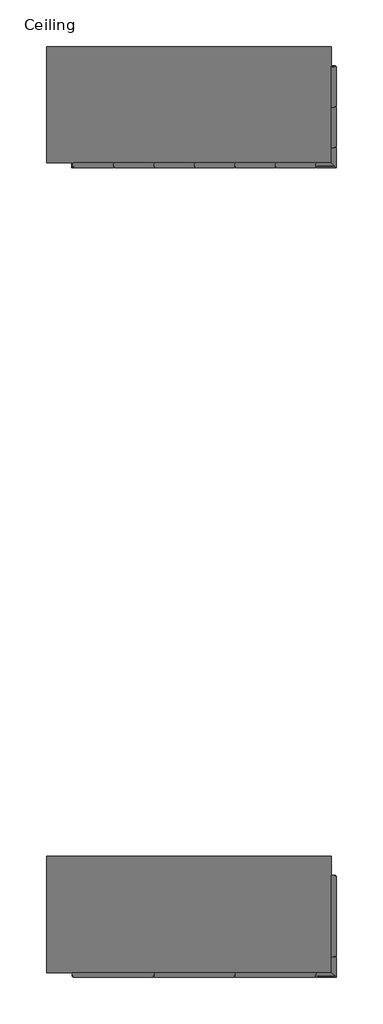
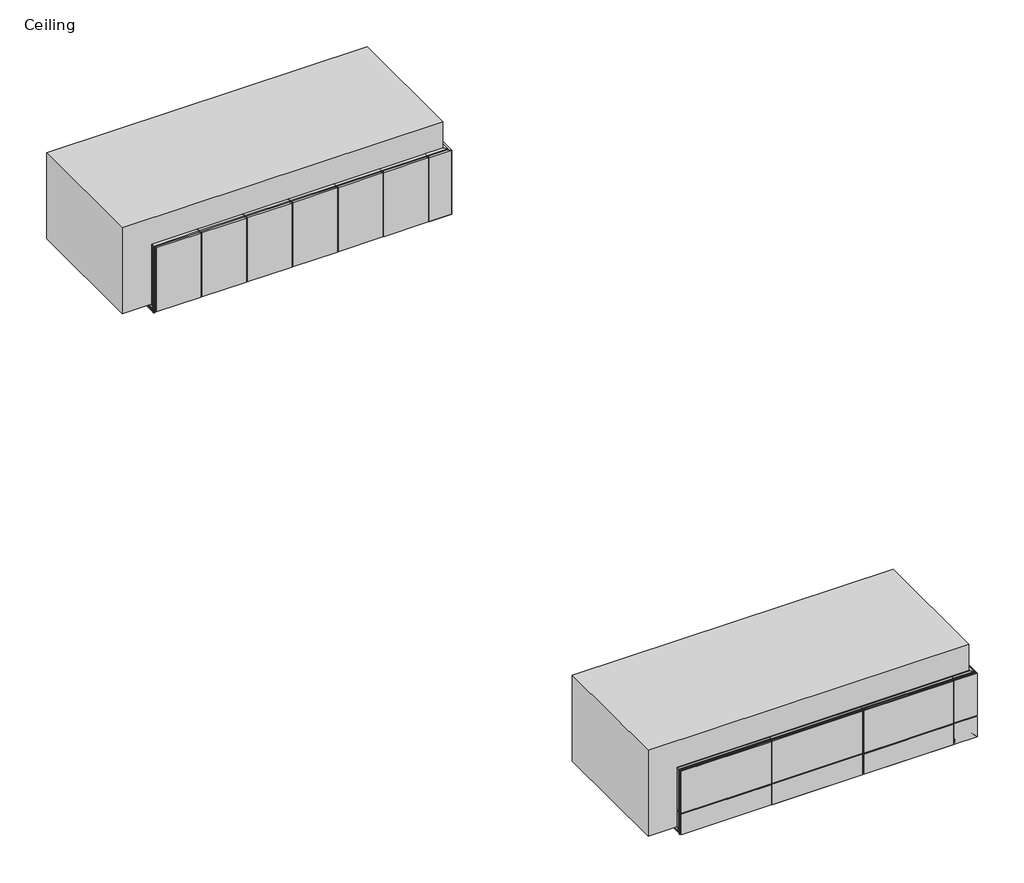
# One storey: 35 plates, 8 members, 5 beams, 4 columns, 2 proxies.
"""IFC4 building model written with IfcOpenShell, lengths in millimetres."""

from ifc_helpers import new_model, si_unit, frame, origin, place, context, project, spatial, polyline, outline, extrude, transform, mapped, element, save
from components import qo_joint_qo_joint_747832e5, qo_joint_qo_joint_809a4c1a, qo_joint_qo_joint_ef6f4e35, qo_joint_qo_joint_871b31b3, qo_joint_b5581623, qo_joint_c_qo_joint_b85e453c, qo_joint_c_qo_joint_4fdc384a, qo_joint_c_qo_joint_f93855ad, rectangular_mullion_dd22ac08, rectangular_mullion_9c43bcef, qb_typ_1_c7bdcc42, qb_typ_1_3ef9bbf9, qb_typ_1_3849cef3, qb_typ_3_8dd94ec6, qb_typ_3_7d6ad6a2, qb_typ_3_c6da5b13, qb_typ_3_665156d4, qb_typ_3_c4b4b162, qb_typ_3_2d20ebb0, qb_typ_3_0e3169c6, qb_typ_4_65a9b30b, qb_typ_4_d61ff5ee, qbf_typ_1_f17363b2, qbf_typ_1_a1c9edf7, qbf_typ_3_6f9cfad4, system_panel_glazed_f46b79a8, tr_empty_empty_53851024, tr_empty_empty_edf3b101, tr_empty_empty_15cdecc1

model = new_model("IFC4")

# Units and contexts
model_context = context("Model", 3, world=origin())
ifc_project = project(units=[si_unit("LENGTHUNIT", "METRE", prefix="MILLI")], contexts=[model_context])

# Site, building, storey
site = spatial("IfcSite", under=ifc_project)
building = spatial("IfcBuilding", under=site)
storey = spatial("IfcBuildingStorey", under=building, Name="Ceiling", Elevation=4650.0)

# Beams
placement = place(None, origin())
element("IfcBeam", 1, ObjectType="QO-V-inner corner : QO-V-inner corner", at=placement, inside=storey, context=model_context, shape_type="SweptSolid", body=[
    extrude(outline(polyline([(4650.0, -6510.4430459), (4676.0, -6510.4430459), (4676.0, -6489.4430459), (4678.0, -6489.4430459), (4678.0, -6504.4031258), (4676.8, -6504.4031258), (4676.8, -6511.2430459), (4650.8, -6511.2430459), (4650.8, -6541.6430459), (4658.0, -6541.6430459), (4658.0, -6540.4430459), (4678.0, -6540.4430459), (4678.0, -6542.4430459), (4650.0, -6542.4430459), (4650.0, -6510.4430459)])), frame((0.0, 5485.8999997, 0.0), z_axis=(0.0, 1.0, 0.0), x_axis=(0.0, 0.0, 1.0)), (0.0, 0.0, 1.0), 2513.9000003),
])
qo_joint_qo_joint_shape = qo_joint_qo_joint_747832e5(model_context)
element("IfcBeam", 2, ObjectType="QO_Joint : QO_Joint", at=placement, inside=storey, context=model_context, shape_type="MappedRepresentation", body=[
    mapped(qo_joint_qo_joint_shape, transform((-6015.5000002, -12012.6989153, 4650.0), x_axis=(1.0, 0.0, 0.0), y_axis=(0.0, 1.0, 0.0), z_axis=(0.0, 0.0, 1.0))),
])
qo_joint_qo_joint_2_shape = qo_joint_qo_joint_809a4c1a(model_context)
element("IfcBeam", 3, ObjectType="QO_Joint : QO_Joint", at=placement, inside=storey, context=model_context, shape_type="MappedRepresentation", body=[
    mapped(qo_joint_qo_joint_2_shape, transform((-6015.5000002, -14008.1989153, 4650.0), x_axis=(1.0, 0.0, 0.0), y_axis=(0.0, 1.0, 0.0), z_axis=(0.0, 0.0, 1.0))),
])
qo_joint_qo_joint_3_shape = qo_joint_qo_joint_ef6f4e35(model_context)
element("IfcBeam", 4, ObjectType="QO_Joint : QO_Joint", at=placement, inside=storey, context=model_context, shape_type="MappedRepresentation", body=[
    mapped(qo_joint_qo_joint_3_shape, transform((-6516.5010848, -13010.25, 4650.0), x_axis=(0.0, 1.0, 0.0), y_axis=(-1.0, 0.0, 0.0), z_axis=(0.0, 0.0, 1.0))),
])
qo_joint_qo_joint_4_shape = qo_joint_qo_joint_871b31b3(model_context)
element("IfcBeam", 5, ObjectType="QO_Joint : QO_Joint", at=placement, inside=storey, context=model_context, shape_type="MappedRepresentation", body=[
    mapped(qo_joint_qo_joint_4_shape, transform((-243.65, 7987.3962597, 4650.0), x_axis=(-1.0, 0.0, 0.0), y_axis=(0.0, -1.0, 0.0), z_axis=(0.0, 0.0, 1.0))),
])

# Proxies
element("IfcBuildingElementProxy", 6, Name="Mass 1 : Mass 1", ObjectType="Mass 1 : Mass 1", at=placement, inside=storey, context=model_context, shape_type="SweptSolid", body=[
    extrude(outline(polyline([(-7167.3804697, -14405.0), (-7167.3804697, -11531.4213108), (-120.0, -11531.4213108), (-120.0, -14405.0), (-7167.3804697, -14405.0)])), frame((0.0, 0.0, 4770.0), z_axis=(0.0, 0.0, 1.0), x_axis=(1.0, 0.0, 0.0)), (0.0, 0.0, 1.0), 2000.0),
])
element("IfcBuildingElementProxy", 7, Name="Mass 2 : Mass 1", ObjectType="Mass 2 : Mass 1", at=placement, inside=storey, context=model_context, shape_type="SweptSolid", body=[
    extrude(outline(polyline([(-7167.3804697, 5605.8999997), (-7167.3804697, 8479.4786889), (-120.0, 8479.4786889), (-120.0, 5605.8999997), (-7167.3804697, 5605.8999997)])), frame((0.0, 0.0, 4770.0), z_axis=(0.0, 0.0, 1.0), x_axis=(1.0, 0.0, 0.0)), (0.0, 0.0, 1.0), 2000.0),
])

# Columns
qo_joint_shape = qo_joint_b5581623(model_context)
element("IfcColumn", 8, ObjectType="QO-V-inner corner_C : QO Joint", at=placement, inside=storey, context=model_context, shape_type="MappedRepresentation", body=[
    mapped(qo_joint_shape, transform((-6489.4430459, 5485.8999997, 0.0), x_axis=(1.0, 0.0, 0.0), y_axis=(0.0, 1.0, 0.0), z_axis=(0.0, 0.0, 1.0))),
])
qo_joint_c_qo_joint_shape = qo_joint_c_qo_joint_b85e453c(model_context)
element("IfcColumn", 9, ObjectType="QO Joint_C : QO Joint", at=placement, inside=storey, context=model_context, shape_type="MappedRepresentation", body=[
    mapped(qo_joint_c_qo_joint_shape, transform((-6516.5000002, -14525.0, 0.0), x_axis=(1.0, 0.0, 0.0), y_axis=(0.0, 1.0, 0.0), z_axis=(0.0, 0.0, 1.0))),
])
qo_joint_c_qo_joint_2_shape = qo_joint_c_qo_joint_4fdc384a(model_context)
element("IfcColumn", 10, ObjectType="QO Joint_C : QO Joint", at=placement, inside=storey, context=model_context, shape_type="MappedRepresentation", body=[
    mapped(qo_joint_c_qo_joint_2_shape, transform((0.0, -12012.5, 0.0), x_axis=(0.0, 1.0, 0.0), y_axis=(-1.0, 0.0, 0.0), z_axis=(0.0, 0.0, 1.0))),
])
qo_joint_c_qo_joint_3_shape = qo_joint_c_qo_joint_f93855ad(model_context)
element("IfcColumn", 11, ObjectType="QO Joint_C : QO Joint", at=placement, inside=storey, context=model_context, shape_type="MappedRepresentation", body=[
    mapped(qo_joint_c_qo_joint_3_shape, transform((0.0, 7987.5349205, 0.0), x_axis=(0.0, 1.0, 0.0), y_axis=(-1.0, 0.0, 0.0), z_axis=(0.0, 0.0, 1.0))),
])

# Members
rectangular_mullion_shape = rectangular_mullion_dd22ac08(model_context)
element("IfcMember", 12, ObjectType="Rectangular Mullion : QO-H-01_01 Joint", at=placement, inside=storey, context=model_context, shape_type="MappedRepresentation", body=[
    mapped(rectangular_mullion_shape, transform((-517.0, -14525.0, 5150.0), x_axis=(-1.0, 0.0, 0.0), y_axis=(0.0, 1.0, 0.0), z_axis=(0.0, 0.0, -1.0))),
])
element("IfcMember", 13, ObjectType="Rectangular Mullion : QO-H-01_01 Joint", at=placement, inside=storey, context=model_context, shape_type="MappedRepresentation", body=[
    mapped(rectangular_mullion_shape, transform((0.0, -14008.0, 5150.0), x_axis=(0.0, -1.0, 0.0), y_axis=(-1.0, 0.0, 0.0), z_axis=(0.0, 0.0, -1.0))),
])
element("IfcMember", 14, ObjectType="Rectangular Mullion : QO-H-01_01 Joint", at=placement, inside=storey, context=model_context, shape_type="MappedRepresentation", body=[
    mapped(rectangular_mullion_shape, transform((-2515.5000003, -14525.0, 5150.0), x_axis=(-1.0, 0.0, 0.0), y_axis=(0.0, 1.0, 0.0), z_axis=(0.0, 0.0, -1.0))),
])
element("IfcMember", 15, ObjectType="Rectangular Mullion : QO-H-01_01 Joint", at=placement, inside=storey, context=model_context, shape_type="MappedRepresentation", body=[
    mapped(rectangular_mullion_shape, transform((-4515.5000003, -14525.0, 5150.0), x_axis=(-1.0, 0.0, 0.0), y_axis=(0.0, 1.0, 0.0), z_axis=(0.0, 0.0, -1.0))),
])
rectangular_mullion_2_shape = rectangular_mullion_9c43bcef(model_context)
element("IfcMember", 16, ObjectType="Rectangular Mullion : QO-H-01_01 Joint", at=placement, inside=storey, context=model_context, shape_type="MappedRepresentation", body=[
    mapped(rectangular_mullion_2_shape, transform((-517.0, -14525.0, 4650.0), x_axis=(-1.0, 0.0, 0.0), y_axis=(0.0, 1.0, 0.0), z_axis=(0.0, 0.0, -1.0))),
])
element("IfcMember", 17, ObjectType="Rectangular Mullion : QO-H-01_01 Joint", at=placement, inside=storey, context=model_context, shape_type="MappedRepresentation", body=[
    mapped(rectangular_mullion_2_shape, transform((0.0, -14008.0, 4650.0), x_axis=(0.0, -1.0, 0.0), y_axis=(-1.0, 0.0, 0.0), z_axis=(0.0, 0.0, -1.0))),
])
element("IfcMember", 18, ObjectType="Rectangular Mullion : QO-H-01_01 Joint", at=placement, inside=storey, context=model_context, shape_type="MappedRepresentation", body=[
    mapped(rectangular_mullion_2_shape, transform((-2515.5000003, -14525.0, 4650.0), x_axis=(-1.0, 0.0, 0.0), y_axis=(0.0, 1.0, 0.0), z_axis=(0.0, 0.0, -1.0))),
])
element("IfcMember", 19, ObjectType="Rectangular Mullion : QO-H-01_01 Joint", at=placement, inside=storey, context=model_context, shape_type="MappedRepresentation", body=[
    mapped(rectangular_mullion_2_shape, transform((-4515.5000003, -14525.0, 4650.0), x_axis=(-1.0, 0.0, 0.0), y_axis=(0.0, 1.0, 0.0), z_axis=(0.0, 0.0, -1.0))),
])

# Plates
qb_typ_1_shape = qb_typ_1_c7bdcc42(model_context)
element("IfcPlate", 20, ObjectType="TR_C_H_QBISS_Panel : QB TYP 1", at=placement, inside=storey, context=model_context, shape_type="MappedRepresentation", body=[
    mapped(qb_typ_1_shape, transform((-1516.2500002, -14525.0, 5150.0), x_axis=(-1.0, 0.0, 0.0), y_axis=(0.0, -1.0, 0.0), z_axis=(0.0, 0.0, 1.0))),
])
qb_typ_1_2_shape = qb_typ_1_3ef9bbf9(model_context)
element("IfcPlate", 21, ObjectType="TR_C_H_QBISS_Panel : QB TYP 1", at=placement, inside=storey, context=model_context, shape_type="MappedRepresentation", body=[
    mapped(qb_typ_1_2_shape, transform((-3515.5000003, -14525.0, 5150.0), x_axis=(-1.0, 0.0, 0.0), y_axis=(0.0, -1.0, 0.0), z_axis=(0.0, 0.0, 1.0))),
])
qb_typ_1_3_shape = qb_typ_1_3849cef3(model_context)
element("IfcPlate", 22, ObjectType="TR_C_V_QBISS_Corner_Tr : QB TYP 1", at=placement, inside=storey, context=model_context, shape_type="MappedRepresentation", body=[
    mapped(qb_typ_1_3_shape, transform((-1015.0000003, 5485.8999997, 4650.0), x_axis=(-1.0, 0.0, 0.0), y_axis=(0.0, -1.0, 0.0), z_axis=(0.0, 0.0, 1.0))),
])
element("IfcPlate", 23, ObjectType="TR_C_V_QBISS_Corner_Tr : QB TYP 1", at=placement, inside=storey, context=model_context, shape_type="MappedRepresentation", body=[
    mapped(qb_typ_1_3_shape, transform((-2015.0000003, 5485.8999997, 4650.0), x_axis=(-1.0, 0.0, 0.0), y_axis=(0.0, -1.0, 0.0), z_axis=(0.0, 0.0, 1.0))),
])
element("IfcPlate", 24, ObjectType="TR_C_V_QBISS_Corner_Tr : QB TYP 1", at=placement, inside=storey, context=model_context, shape_type="MappedRepresentation", body=[
    mapped(qb_typ_1_3_shape, transform((-3015.0000003, 5485.8999997, 4650.0), x_axis=(-1.0, 0.0, 0.0), y_axis=(0.0, -1.0, 0.0), z_axis=(0.0, 0.0, 1.0))),
])
element("IfcPlate", 25, ObjectType="TR_C_V_QBISS_Corner_Tr : QB TYP 1", at=placement, inside=storey, context=model_context, shape_type="MappedRepresentation", body=[
    mapped(qb_typ_1_3_shape, transform((-4015.0000003, 5485.8999997, 4650.0), x_axis=(-1.0, 0.0, 0.0), y_axis=(0.0, -1.0, 0.0), z_axis=(0.0, 0.0, 1.0))),
])
element("IfcPlate", 26, ObjectType="TR_C_V_QBISS_Corner_Tr : QB TYP 1", at=placement, inside=storey, context=model_context, shape_type="MappedRepresentation", body=[
    mapped(qb_typ_1_3_shape, transform((-5015.0000003, 5485.8999997, 4650.0), x_axis=(-1.0, 0.0, 0.0), y_axis=(0.0, -1.0, 0.0), z_axis=(0.0, 0.0, 1.0))),
])
element("IfcPlate", 27, ObjectType="TR_C_V_QBISS_Corner_Tr : QB TYP 1", at=placement, inside=storey, context=model_context, shape_type="MappedRepresentation", body=[
    mapped(qb_typ_1_3_shape, transform((-6015.0000003, 5485.8999997, 4650.0), x_axis=(-1.0, 0.0, 0.0), y_axis=(0.0, -1.0, 0.0), z_axis=(0.0, 0.0, 1.0))),
])
qb_typ_3_shape = qb_typ_3_8dd94ec6(model_context)
element("IfcPlate", 28, ObjectType="TR_C_V_QBISS_Panel : QB TYP 3", at=placement, inside=storey, context=model_context, shape_type="MappedRepresentation", body=[
    mapped(qb_typ_3_shape, transform((-6000.0000002, -14008.0, 4650.0), x_axis=(1.0, 0.0, 0.0), y_axis=(0.0, 0.0, -1.0), z_axis=(0.0, 1.0, 0.0))),
])
element("IfcPlate", 29, ObjectType="TR_C_V_QBISS_Panel : QB TYP 3", at=placement, inside=storey, context=model_context, shape_type="MappedRepresentation", body=[
    mapped(qb_typ_3_shape, transform((-5000.0000003, -14008.0, 4650.0), x_axis=(1.0, 0.0, 0.0), y_axis=(0.0, 0.0, -1.0), z_axis=(0.0, 1.0, 0.0))),
])
element("IfcPlate", 30, ObjectType="TR_C_V_QBISS_Panel : QB TYP 3", at=placement, inside=storey, context=model_context, shape_type="MappedRepresentation", body=[
    mapped(qb_typ_3_shape, transform((-4000.0000003, -14008.0, 4650.0), x_axis=(1.0, 0.0, 0.0), y_axis=(0.0, 0.0, -1.0), z_axis=(0.0, 1.0, 0.0))),
])
element("IfcPlate", 31, ObjectType="TR_C_V_QBISS_Panel : QB TYP 3", at=placement, inside=storey, context=model_context, shape_type="MappedRepresentation", body=[
    mapped(qb_typ_3_shape, transform((-3000.0000003, -14008.0, 4650.0), x_axis=(1.0, 0.0, 0.0), y_axis=(0.0, 0.0, -1.0), z_axis=(0.0, 1.0, 0.0))),
])
element("IfcPlate", 32, ObjectType="TR_C_V_QBISS_Panel : QB TYP 3", at=placement, inside=storey, context=model_context, shape_type="MappedRepresentation", body=[
    mapped(qb_typ_3_shape, transform((-2000.0000003, -14008.0, 4650.0), x_axis=(1.0, 0.0, 0.0), y_axis=(0.0, 0.0, -1.0), z_axis=(0.0, 1.0, 0.0))),
])
element("IfcPlate", 33, ObjectType="TR_C_V_QBISS_Panel : QB TYP 3", at=placement, inside=storey, context=model_context, shape_type="MappedRepresentation", body=[
    mapped(qb_typ_3_shape, transform((-1000.0000002, -14008.0, 4650.0), x_axis=(1.0, 0.0, 0.0), y_axis=(0.0, 0.0, -1.0), z_axis=(0.0, 1.0, 0.0))),
])
qb_typ_3_2_shape = qb_typ_3_7d6ad6a2(model_context)
element("IfcPlate", 34, ObjectType="TR_C_V_QBISS_Panel : QB TYP 3", at=placement, inside=storey, context=model_context, shape_type="MappedRepresentation", body=[
    mapped(qb_typ_3_2_shape, transform((-1015.0000003, 7987.4, 4650.0), x_axis=(-1.0, 0.0, 0.0), y_axis=(0.0, 0.0, -1.0), z_axis=(0.0, -1.0, 0.0))),
])
element("IfcPlate", 35, ObjectType="TR_C_V_QBISS_Panel : QB TYP 3", at=placement, inside=storey, context=model_context, shape_type="MappedRepresentation", body=[
    mapped(qb_typ_3_2_shape, transform((-2015.0000002, 7987.4, 4650.0), x_axis=(-1.0, 0.0, 0.0), y_axis=(0.0, 0.0, -1.0), z_axis=(0.0, -1.0, 0.0))),
])
element("IfcPlate", 36, ObjectType="TR_C_V_QBISS_Panel : QB TYP 3", at=placement, inside=storey, context=model_context, shape_type="MappedRepresentation", body=[
    mapped(qb_typ_3_2_shape, transform((-3015.0000002, 7987.4, 4650.0), x_axis=(-1.0, 0.0, 0.0), y_axis=(0.0, 0.0, -1.0), z_axis=(0.0, -1.0, 0.0))),
])
element("IfcPlate", 37, ObjectType="TR_C_V_QBISS_Panel : QB TYP 3", at=placement, inside=storey, context=model_context, shape_type="MappedRepresentation", body=[
    mapped(qb_typ_3_2_shape, transform((-4015.0000002, 7987.4, 4650.0), x_axis=(-1.0, 0.0, 0.0), y_axis=(0.0, 0.0, -1.0), z_axis=(0.0, -1.0, 0.0))),
])
element("IfcPlate", 38, ObjectType="TR_C_V_QBISS_Panel : QB TYP 3", at=placement, inside=storey, context=model_context, shape_type="MappedRepresentation", body=[
    mapped(qb_typ_3_2_shape, transform((-5015.0000002, 7987.4, 4650.0), x_axis=(-1.0, 0.0, 0.0), y_axis=(0.0, 0.0, -1.0), z_axis=(0.0, -1.0, 0.0))),
])
element("IfcPlate", 39, ObjectType="TR_C_V_QBISS_Panel : QB TYP 3", at=placement, inside=storey, context=model_context, shape_type="MappedRepresentation", body=[
    mapped(qb_typ_3_2_shape, transform((-6015.0000003, 7987.4, 4650.0), x_axis=(-1.0, 0.0, 0.0), y_axis=(0.0, 0.0, -1.0), z_axis=(0.0, -1.0, 0.0))),
])
qb_typ_3_3_shape = qb_typ_3_c6da5b13(model_context)
element("IfcPlate", 40, ObjectType="TR_C_V_QBISS_Corner_3D_edge cut_A : QB TYP 3", at=placement, inside=storey, context=model_context, shape_type="MappedRepresentation", body=[
    mapped(qb_typ_3_3_shape, transform((0.0, 5728.3999998, 4650.0), x_axis=(0.0, -1.0, 0.0), y_axis=(1.0, 0.0, 0.0), z_axis=(0.0, 0.0, 1.0))),
])
qb_typ_3_4_shape = qb_typ_3_665156d4(model_context)
element("IfcPlate", 41, ObjectType="TR_C_H_QBISS_Corner_Long_B : QB TYP 3", at=placement, inside=storey, context=model_context, shape_type="MappedRepresentation", body=[
    mapped(qb_typ_3_4_shape, transform((0.0, -13010.25, 4650.0), x_axis=(0.0, -1.0, 0.0), y_axis=(1.0, 0.0, 0.0), z_axis=(0.0, 0.0, 1.0))),
])
qb_typ_3_5_shape = qb_typ_3_c4b4b162(model_context)
element("IfcPlate", 42, ObjectType="TR_C_H_QBISS_Panel : QB TYP 3", at=placement, inside=storey, context=model_context, shape_type="MappedRepresentation", body=[
    mapped(qb_typ_3_5_shape, transform((0.0, -13010.25, 5150.0), x_axis=(0.0, -1.0, 0.0), y_axis=(1.0, 0.0, 0.0), z_axis=(0.0, 0.0, 1.0))),
])
qb_typ_3_6_shape = qb_typ_3_2d20ebb0(model_context)
element("IfcPlate", 43, ObjectType="TR_C_H_QBISS_Panel : QB TYP 3", at=placement, inside=storey, context=model_context, shape_type="MappedRepresentation", body=[
    mapped(qb_typ_3_6_shape, transform((-5516.0000002, -14525.0, 5150.0), x_axis=(-1.0, 0.0, 0.0), y_axis=(0.0, -1.0, 0.0), z_axis=(0.0, 0.0, 1.0))),
])
qb_typ_3_7_shape = qb_typ_3_0e3169c6(model_context)
element("IfcPlate", 44, ObjectType="TR_C_V_QBISS_Corner_Tr : QB TYP 3", at=placement, inside=storey, context=model_context, shape_type="MappedRepresentation", body=[
    mapped(qb_typ_3_7_shape, transform((0.0, 6470.9, 4650.0), x_axis=(0.0, -1.0, 0.0), y_axis=(1.0, 0.0, 0.0), z_axis=(0.0, 0.0, 1.0))),
])
element("IfcPlate", 45, ObjectType="TR_C_V_QBISS_Corner_Tr : QB TYP 3", at=placement, inside=storey, context=model_context, shape_type="MappedRepresentation", body=[
    mapped(qb_typ_3_7_shape, transform((0.0, 7470.8999998, 4650.0), x_axis=(0.0, -1.0, 0.0), y_axis=(1.0, 0.0, 0.0), z_axis=(0.0, 0.0, 1.0))),
])
qb_typ_4_shape = qb_typ_4_65a9b30b(model_context)
element("IfcPlate", 46, ObjectType="TR_C_H_QBISS_Corner_3D_edge cut_A : QB TYP 4", at=placement, inside=storey, context=model_context, shape_type="MappedRepresentation", body=[
    mapped(qb_typ_4_shape, transform((0.0, -14266.5, 4650.0), x_axis=(0.0, -1.0, 0.0), y_axis=(1.0, 0.0, 0.0), z_axis=(0.0, 0.0, 1.0))),
])
qb_typ_4_2_shape = qb_typ_4_d61ff5ee(model_context)
element("IfcPlate", 47, ObjectType="TR_C_H_QBISS_Corner_Tr_A : QB TYP 4", at=placement, inside=storey, context=model_context, shape_type="MappedRepresentation", body=[
    mapped(qb_typ_4_2_shape, transform((0.0, -14266.5, 5150.0), x_axis=(0.0, -1.0, 0.0), y_axis=(1.0, 0.0, 0.0), z_axis=(0.0, 0.0, 1.0))),
])
qbf_typ_1_shape = qbf_typ_1_f17363b2(model_context)
element("IfcPlate", 48, ObjectType="TR_C_H_QBISS_Corner_Long_B : QBF TYP 1", at=placement, inside=storey, context=model_context, shape_type="MappedRepresentation", body=[
    mapped(qbf_typ_1_shape, transform((-1516.2500002, -14525.0, 4650.0), x_axis=(-1.0, 0.0, 0.0), y_axis=(0.0, -1.0, 0.0), z_axis=(0.0, 0.0, 1.0))),
])
qbf_typ_1_2_shape = qbf_typ_1_a1c9edf7(model_context)
element("IfcPlate", 49, ObjectType="TR_C_H_QBISS_Corner_Long_B : QBF TYP 1", at=placement, inside=storey, context=model_context, shape_type="MappedRepresentation", body=[
    mapped(qbf_typ_1_2_shape, transform((-3515.5000003, -14525.0, 4650.0), x_axis=(-1.0, 0.0, 0.0), y_axis=(0.0, -1.0, 0.0), z_axis=(0.0, 0.0, 1.0))),
])
qbf_typ_3_shape = qbf_typ_3_6f9cfad4(model_context)
element("IfcPlate", 50, ObjectType="TR_C_H_QBISS_Corner_Long_B : QBF TYP 3", at=placement, inside=storey, context=model_context, shape_type="MappedRepresentation", body=[
    mapped(qbf_typ_3_shape, transform((-5516.0000002, -14525.0, 4650.0), x_axis=(-1.0, 0.0, 0.0), y_axis=(0.0, -1.0, 0.0), z_axis=(0.0, 0.0, 1.0))),
])
system_panel_glazed_shape = system_panel_glazed_f46b79a8(model_context)
element("IfcPlate", 51, ObjectType="System Panel : Glazed", at=placement, inside=storey, context=model_context, shape_type="MappedRepresentation", body=[
    mapped(system_panel_glazed_shape, transform((-6515.7500002, 5485.8999997, 4650.0), x_axis=(-1.0, 0.0, 0.0), y_axis=(0.0, -1.0, 0.0), z_axis=(0.0, 0.0, 1.0))),
])
tr_empty_empty_shape = tr_empty_empty_53851024(model_context)
element("IfcPlate", 52, ObjectType="TR_EMPTY : EMPTY", at=placement, inside=storey, context=model_context, shape_type="MappedRepresentation", body=[
    mapped(tr_empty_empty_shape, transform((-258.5, -14525.0, 4650.0), x_axis=(-1.0, 0.0, 0.0), y_axis=(0.0, -1.0, 0.0), z_axis=(0.0, 0.0, 1.0))),
])
tr_empty_empty_2_shape = tr_empty_empty_edf3b101(model_context)
element("IfcPlate", 53, ObjectType="TR_EMPTY : EMPTY", at=placement, inside=storey, context=model_context, shape_type="MappedRepresentation", body=[
    mapped(tr_empty_empty_2_shape, transform((-258.5, -14525.0, 5150.0), x_axis=(-1.0, 0.0, 0.0), y_axis=(0.0, -1.0, 0.0), z_axis=(0.0, 0.0, 1.0))),
])
tr_empty_empty_3_shape = tr_empty_empty_15cdecc1(model_context)
element("IfcPlate", 54, ObjectType="TR_EMPTY : EMPTY", at=placement, inside=storey, context=model_context, shape_type="MappedRepresentation", body=[
    mapped(tr_empty_empty_3_shape, transform((-257.5000002, 5485.8999997, 4650.0), x_axis=(-1.0, 0.0, 0.0), y_axis=(0.0, -1.0, 0.0), z_axis=(0.0, 0.0, 1.0))),
])

save(model, "model.ifc")
